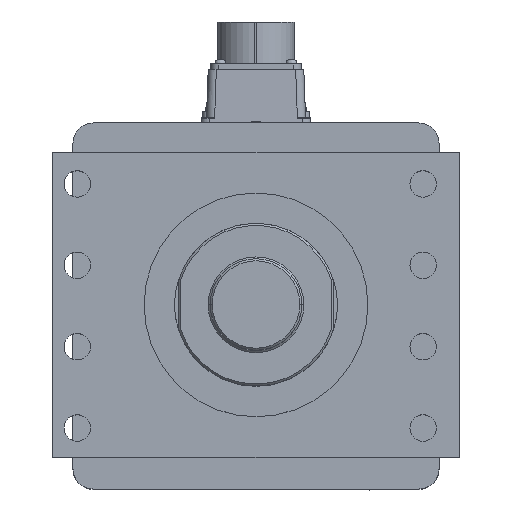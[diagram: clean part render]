
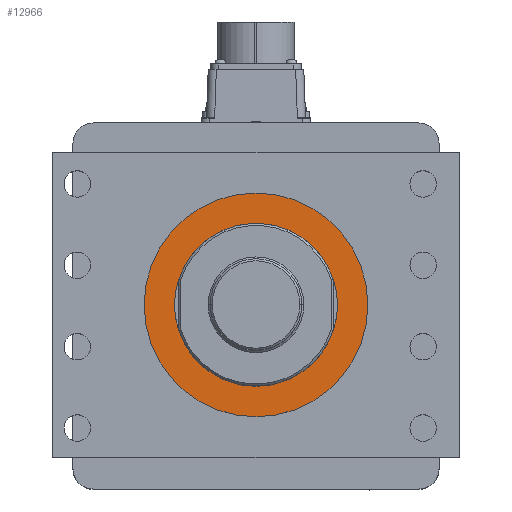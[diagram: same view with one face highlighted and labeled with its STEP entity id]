
A CAD part, top view. The second image highlights one B-rep face of the part: STEP entity #12966.
In plain terms, the highlighted planar face has unit normal (0, 0, 1).
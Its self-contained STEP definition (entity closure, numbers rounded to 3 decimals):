
#687 = CARTESIAN_POINT ( 'NONE',  ( 0., 0., 322. ) ) ;
#755 = DIRECTION ( 'NONE',  ( 0., 0., 1. ) ) ;
#795 = DIRECTION ( 'NONE',  ( 1., 0., 0. ) ) ;
#816 = CIRCLE ( 'NONE', #16413, 40. ) ;
#1099 = ORIENTED_EDGE ( 'NONE', *, *, #15482, .F. ) ;
#1126 = VERTEX_POINT ( 'NONE', #20253 ) ;
#1193 = DIRECTION ( 'NONE',  ( 1., 0., 0. ) ) ;
#1814 = EDGE_LOOP ( 'NONE', ( #1099, #12994 ) ) ;
#2417 = EDGE_CURVE ( 'NONE', #1126, #3969, #22641, .T. ) ;
#3738 = CARTESIAN_POINT ( 'NONE',  ( 40., 0., 322. ) ) ;
#3969 = VERTEX_POINT ( 'NONE', #12928 ) ;
#4720 = DIRECTION ( 'NONE',  ( 1., 0., 0. ) ) ;
#4722 = ORIENTED_EDGE ( 'NONE', *, *, #2417, .T. ) ;
#4984 = AXIS2_PLACEMENT_3D ( 'NONE', #24196, #10892, #15102 ) ;
#5325 = DIRECTION ( 'NONE',  ( 1., 0., 0. ) ) ;
#6390 = CARTESIAN_POINT ( 'NONE',  ( -40., 0., 322. ) ) ;
#6445 = ORIENTED_EDGE ( 'NONE', *, *, #21436, .T. ) ;
#8342 = FACE_OUTER_BOUND ( 'NONE', #19625, .T. ) ;
#9315 = CIRCLE ( 'NONE', #26119, 40. ) ;
#9588 = CARTESIAN_POINT ( 'NONE',  ( 0., 0., 322. ) ) ;
#10525 = DIRECTION ( 'NONE',  ( 0., 0., 1. ) ) ;
#10892 = DIRECTION ( 'NONE',  ( 0., 0., 1. ) ) ;
#10947 = EDGE_CURVE ( 'NONE', #24615, #19335, #816, .T. ) ;
#12928 = CARTESIAN_POINT ( 'NONE',  ( 55., 0., 322. ) ) ;
#12966 = ADVANCED_FACE ( 'NONE', ( #20420, #8342 ), #23915, .T. ) ;
#12994 = ORIENTED_EDGE ( 'NONE', *, *, #10947, .F. ) ;
#15102 = DIRECTION ( 'NONE',  ( 1., 0., 0. ) ) ;
#15482 = EDGE_CURVE ( 'NONE', #19335, #24615, #9315, .T. ) ;
#16413 = AXIS2_PLACEMENT_3D ( 'NONE', #687, #18980, #795 ) ;
#18744 = CARTESIAN_POINT ( 'NONE',  ( 0., 0., 322. ) ) ;
#18980 = DIRECTION ( 'NONE',  ( 0., 0., 1. ) ) ;
#19335 = VERTEX_POINT ( 'NONE', #3738 ) ;
#19556 = CARTESIAN_POINT ( 'NONE',  ( 0., 0., 322. ) ) ;
#19625 = EDGE_LOOP ( 'NONE', ( #4722, #6445 ) ) ;
#20125 = CIRCLE ( 'NONE', #4984, 55. ) ;
#20253 = CARTESIAN_POINT ( 'NONE',  ( -55., 0., 322. ) ) ;
#20420 = FACE_BOUND ( 'NONE', #1814, .T. ) ;
#20601 = AXIS2_PLACEMENT_3D ( 'NONE', #19556, #10525, #1193 ) ;
#20821 = DIRECTION ( 'NONE',  ( 0., 0., 1. ) ) ;
#21436 = EDGE_CURVE ( 'NONE', #3969, #1126, #20125, .T. ) ;
#22641 = CIRCLE ( 'NONE', #25934, 55. ) ;
#23915 = PLANE ( 'NONE',  #20601 ) ;
#24196 = CARTESIAN_POINT ( 'NONE',  ( 0., 0., 322. ) ) ;
#24615 = VERTEX_POINT ( 'NONE', #6390 ) ;
#25934 = AXIS2_PLACEMENT_3D ( 'NONE', #9588, #20821, #4720 ) ;
#26119 = AXIS2_PLACEMENT_3D ( 'NONE', #18744, #755, #5325 ) ;
